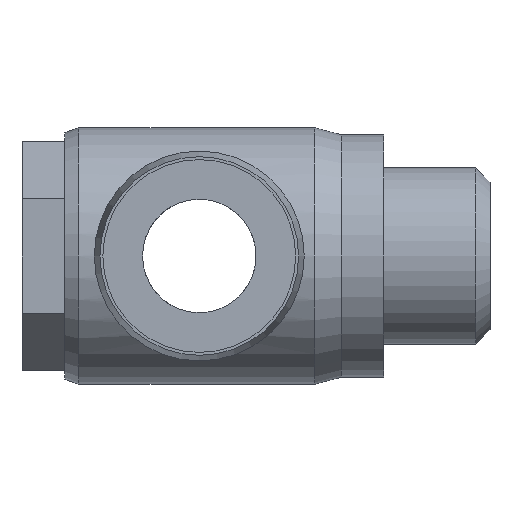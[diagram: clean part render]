
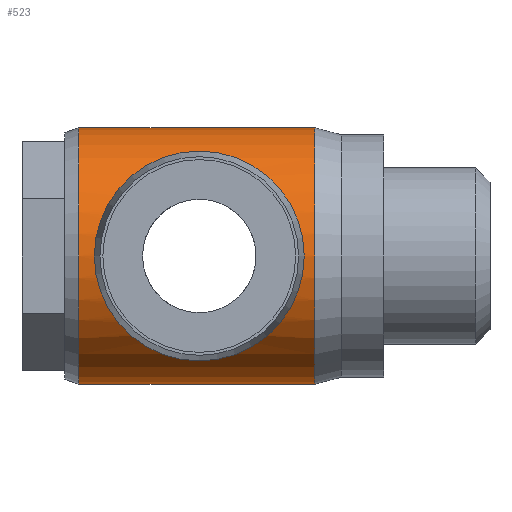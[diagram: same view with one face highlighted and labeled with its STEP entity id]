
A CAD part, left-side view. The second image highlights one B-rep face of the part: STEP entity #523.
In plain terms, the highlighted cylindrical face has radius 9.05 mm (diameter 18.1 mm), a full revolution.
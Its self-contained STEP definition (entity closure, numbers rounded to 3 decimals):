
#72=B_SPLINE_CURVE_WITH_KNOTS($,3,(#970,#971,#972,#973,#974,#975,#976,#977,
#978,#979,#980,#981,#982,#983,#984,#985,#986,#987,#988,#989,#990,#991,#992,
#993,#994,#995,#996,#997,#998,#999,#1000,#1001,#1002,#1003),
 .UNSPECIFIED.,.T.,.F.,(4,2,2,2,2,2,2,2,2,2,2,2,2,2,2,2,4),(0.,0.21,
0.421,0.63,0.839,1.048,1.257,
1.468,1.678,1.889,2.099,2.308,
2.517,2.726,2.935,3.146,3.356),
 .UNSPECIFIED.);
#73=B_SPLINE_CURVE_WITH_KNOTS($,3,(#1005,#1006,#1007,#1008,#1009,#1010,
#1011,#1012,#1013,#1014,#1015,#1016,#1017,#1018,#1019,#1020,#1021,#1022,
#1023,#1024,#1025,#1026,#1027,#1028,#1029,#1030,#1031,#1032,#1033,#1034,
#1035,#1036,#1037,#1038),.UNSPECIFIED.,.T.,.F.,(4,2,2,2,2,2,2,2,2,2,2,2,
2,2,2,2,4),(0.,0.21,0.421,0.63,0.839,
1.048,1.257,1.468,1.678,1.889,
2.099,2.308,2.517,2.726,2.935,
3.146,3.356),.UNSPECIFIED.);
#78=CYLINDRICAL_SURFACE($,#575,9.05);
#115=FACE_BOUND($,#208,.T.);
#116=FACE_BOUND($,#209,.T.);
#117=FACE_BOUND($,#210,.T.);
#118=FACE_BOUND($,#211,.T.);
#208=EDGE_LOOP($,(#440));
#209=EDGE_LOOP($,(#441));
#210=EDGE_LOOP($,(#442));
#211=EDGE_LOOP($,(#443));
#270=CIRCLE($,#576,9.05);
#271=CIRCLE($,#577,9.05);
#315=VERTEX_POINT($,#969);
#316=VERTEX_POINT($,#1004);
#317=VERTEX_POINT($,#1039);
#318=VERTEX_POINT($,#1041);
#368=EDGE_CURVE($,#315,#315,#72,.T.);
#369=EDGE_CURVE($,#316,#316,#73,.T.);
#370=EDGE_CURVE($,#317,#317,#270,.T.);
#371=EDGE_CURVE($,#318,#318,#271,.T.);
#440=ORIENTED_EDGE($,*,*,#368,.F.);
#441=ORIENTED_EDGE($,*,*,#369,.F.);
#442=ORIENTED_EDGE($,*,*,#370,.F.);
#443=ORIENTED_EDGE($,*,*,#371,.T.);
#523=ADVANCED_FACE($,(#115,#116,#117,#118),#78,.T.);
#575=AXIS2_PLACEMENT_3D($,#968,#690,#691);
#576=AXIS2_PLACEMENT_3D($,#1040,#692,#693);
#577=AXIS2_PLACEMENT_3D($,#1042,#694,#695);
#690=DIRECTION('center_axis',(0.,1.,0.));
#691=DIRECTION('ref_axis',(-1.,0.,0.));
#692=DIRECTION('center_axis',(0.,1.,0.));
#693=DIRECTION('ref_axis',(-1.,0.,0.));
#694=DIRECTION('center_axis',(0.,1.,0.));
#695=DIRECTION('ref_axis',(-1.,0.,0.));
#968=CARTESIAN_POINT('Origin',(0.,0.183,0.));
#969=CARTESIAN_POINT('',(7.262,0.,-5.4));
#970=CARTESIAN_POINT('Ctrl Pts',(7.262,0.,
-5.4));
#971=CARTESIAN_POINT('Ctrl Pts',(7.262,0.701,-5.4));
#972=CARTESIAN_POINT('Ctrl Pts',(7.375,1.431,-5.256));
#973=CARTESIAN_POINT('Ctrl Pts',(7.741,2.753,-4.701));
#974=CARTESIAN_POINT('Ctrl Pts',(7.986,3.347,-4.289));
#975=CARTESIAN_POINT('Ctrl Pts',(8.423,4.287,-3.35));
#976=CARTESIAN_POINT('Ctrl Pts',(8.647,4.7,-2.755));
#977=CARTESIAN_POINT('Ctrl Pts',(8.962,5.257,-1.429));
#978=CARTESIAN_POINT('Ctrl Pts',(9.05,5.4,-0.697));
#979=CARTESIAN_POINT('Ctrl Pts',(9.05,5.4,0.697));
#980=CARTESIAN_POINT('Ctrl Pts',(8.962,5.257,1.429));
#981=CARTESIAN_POINT('Ctrl Pts',(8.647,4.7,2.755));
#982=CARTESIAN_POINT('Ctrl Pts',(8.423,4.287,3.35));
#983=CARTESIAN_POINT('Ctrl Pts',(7.986,3.347,4.289));
#984=CARTESIAN_POINT('Ctrl Pts',(7.741,2.753,4.701));
#985=CARTESIAN_POINT('Ctrl Pts',(7.375,1.431,5.256));
#986=CARTESIAN_POINT('Ctrl Pts',(7.262,0.701,5.4));
#987=CARTESIAN_POINT('Ctrl Pts',(7.262,-0.701,5.4));
#988=CARTESIAN_POINT('Ctrl Pts',(7.375,-1.431,5.256));
#989=CARTESIAN_POINT('Ctrl Pts',(7.741,-2.753,4.701));
#990=CARTESIAN_POINT('Ctrl Pts',(7.986,-3.347,4.289));
#991=CARTESIAN_POINT('Ctrl Pts',(8.423,-4.287,3.35));
#992=CARTESIAN_POINT('Ctrl Pts',(8.647,-4.7,2.755));
#993=CARTESIAN_POINT('Ctrl Pts',(8.962,-5.257,1.429));
#994=CARTESIAN_POINT('Ctrl Pts',(9.05,-5.4,0.697));
#995=CARTESIAN_POINT('Ctrl Pts',(9.05,-5.4,-0.697));
#996=CARTESIAN_POINT('Ctrl Pts',(8.962,-5.257,-1.429));
#997=CARTESIAN_POINT('Ctrl Pts',(8.647,-4.7,-2.755));
#998=CARTESIAN_POINT('Ctrl Pts',(8.423,-4.287,-3.35));
#999=CARTESIAN_POINT('Ctrl Pts',(7.986,-3.347,-4.289));
#1000=CARTESIAN_POINT('Ctrl Pts',(7.741,-2.753,-4.701));
#1001=CARTESIAN_POINT('Ctrl Pts',(7.375,-1.431,-5.256));
#1002=CARTESIAN_POINT('Ctrl Pts',(7.262,-0.701,-5.4));
#1003=CARTESIAN_POINT('Ctrl Pts',(7.262,0.,
-5.4));
#1004=CARTESIAN_POINT('',(-7.262,0.,-5.4));
#1005=CARTESIAN_POINT('Ctrl Pts',(-7.262,0.,
-5.4));
#1006=CARTESIAN_POINT('Ctrl Pts',(-7.262,-0.701,-5.4));
#1007=CARTESIAN_POINT('Ctrl Pts',(-7.375,-1.431,-5.256));
#1008=CARTESIAN_POINT('Ctrl Pts',(-7.741,-2.753,-4.701));
#1009=CARTESIAN_POINT('Ctrl Pts',(-7.986,-3.347,-4.289));
#1010=CARTESIAN_POINT('Ctrl Pts',(-8.423,-4.287,-3.35));
#1011=CARTESIAN_POINT('Ctrl Pts',(-8.647,-4.7,-2.755));
#1012=CARTESIAN_POINT('Ctrl Pts',(-8.962,-5.257,-1.429));
#1013=CARTESIAN_POINT('Ctrl Pts',(-9.05,-5.4,-0.697));
#1014=CARTESIAN_POINT('Ctrl Pts',(-9.05,-5.4,0.697));
#1015=CARTESIAN_POINT('Ctrl Pts',(-8.962,-5.257,1.429));
#1016=CARTESIAN_POINT('Ctrl Pts',(-8.647,-4.7,2.755));
#1017=CARTESIAN_POINT('Ctrl Pts',(-8.423,-4.287,3.35));
#1018=CARTESIAN_POINT('Ctrl Pts',(-7.986,-3.347,4.289));
#1019=CARTESIAN_POINT('Ctrl Pts',(-7.741,-2.753,4.701));
#1020=CARTESIAN_POINT('Ctrl Pts',(-7.375,-1.431,5.256));
#1021=CARTESIAN_POINT('Ctrl Pts',(-7.262,-0.701,5.4));
#1022=CARTESIAN_POINT('Ctrl Pts',(-7.262,0.701,5.4));
#1023=CARTESIAN_POINT('Ctrl Pts',(-7.375,1.431,5.256));
#1024=CARTESIAN_POINT('Ctrl Pts',(-7.741,2.753,4.701));
#1025=CARTESIAN_POINT('Ctrl Pts',(-7.986,3.347,4.289));
#1026=CARTESIAN_POINT('Ctrl Pts',(-8.423,4.287,3.35));
#1027=CARTESIAN_POINT('Ctrl Pts',(-8.647,4.7,2.755));
#1028=CARTESIAN_POINT('Ctrl Pts',(-8.962,5.257,1.429));
#1029=CARTESIAN_POINT('Ctrl Pts',(-9.05,5.4,0.697));
#1030=CARTESIAN_POINT('Ctrl Pts',(-9.05,5.4,-0.697));
#1031=CARTESIAN_POINT('Ctrl Pts',(-8.962,5.257,-1.429));
#1032=CARTESIAN_POINT('Ctrl Pts',(-8.647,4.7,-2.755));
#1033=CARTESIAN_POINT('Ctrl Pts',(-8.423,4.287,-3.35));
#1034=CARTESIAN_POINT('Ctrl Pts',(-7.986,3.347,-4.289));
#1035=CARTESIAN_POINT('Ctrl Pts',(-7.741,2.753,-4.701));
#1036=CARTESIAN_POINT('Ctrl Pts',(-7.375,1.431,-5.256));
#1037=CARTESIAN_POINT('Ctrl Pts',(-7.262,0.701,-5.4));
#1038=CARTESIAN_POINT('Ctrl Pts',(-7.262,0.,
-5.4));
#1039=CARTESIAN_POINT('',(-9.05,8.5,0.));
#1040=CARTESIAN_POINT('Origin',(0.,8.5,0.));
#1041=CARTESIAN_POINT('',(-9.05,-8.134,0.));
#1042=CARTESIAN_POINT('Origin',(0.,-8.134,0.));
